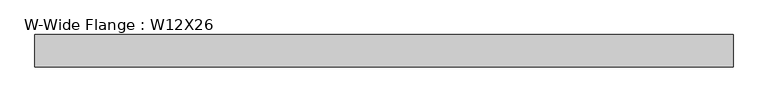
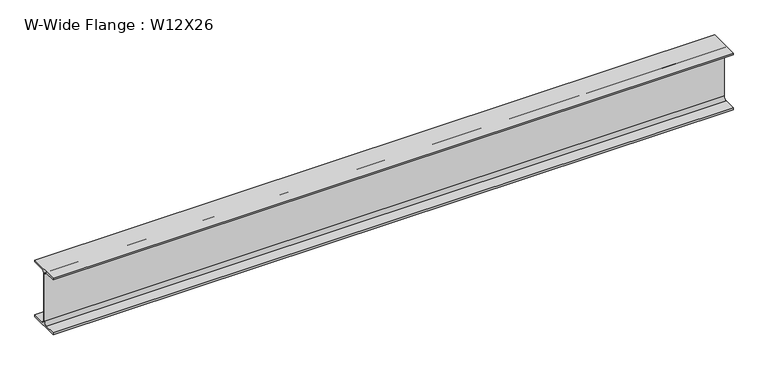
"""IFC4 building model written with IfcOpenShell, lengths in millimetres: beam geometry, W-Wide Flange : W12X26."""

from ifc_helpers import new_model, si_unit, point, frame, frame_2d, origin, place, context, project, spatial, polyline, circle_curve, trimmed, segment, composite_curve, outline, extrude, source, transform, mapped, element, save


def w_wide_flange_w12x26_5015041e(model_context):
    return source(origin(), model_context, "Body", "SweptSolid", [
        extrude(outline(composite_curve([segment(polyline([(82.4011719, -145.5539063), (82.4011719, -155.178125), (-82.4011719, -155.178125), (-82.4011719, -145.5539063), (-20.2902344, -145.5539063)]), True, "CONTINUOUS"), segment(trimmed(circle_curve(frame_2d((-20.2902344, -128.190625)), 17.3632812), [point((-20.2902344, -145.5539063))], [point((-2.9269531, -128.190625))], True, "CARTESIAN"), True, "CONTINUOUS"), segment(polyline([(-2.9269531, -128.190625), (-2.9269531, 128.190625)]), True, "CONTINUOUS"), segment(trimmed(circle_curve(frame_2d((-20.2902344, 128.190625)), 17.3632812), [point((-2.9269531, 128.190625))], [point((-20.2902344, 145.5539062))], True, "CARTESIAN"), True, "CONTINUOUS"), segment(polyline([(-20.2902344, 145.5539062), (-82.4011719, 145.5539062), (-82.4011719, 155.178125), (82.4011719, 155.178125), (82.4011719, 145.5539062), (20.2902344, 145.5539062)]), True, "CONTINUOUS"), segment(trimmed(circle_curve(frame_2d((20.2902344, 128.190625)), 17.3632812), [point((20.2902344, 145.5539062))], [point((2.9269531, 128.190625))], True, "CARTESIAN"), True, "CONTINUOUS"), segment(polyline([(2.9269531, 128.190625), (2.9269531, -128.190625)]), True, "CONTINUOUS"), segment(trimmed(circle_curve(frame_2d((20.2902344, -128.190625)), 17.3632812), [point((2.9269531, -128.190625))], [point((20.2902344, -145.5539063))], True, "CARTESIAN"), True, "CONTINUOUS"), segment(polyline([(20.2902344, -145.5539063), (82.4011719, -145.5539063)]), True, "CONTINUOUS")], self_intersect=False)), frame((-1766.0441406, 0.0, 0.0), z_axis=(1.0, 0.0, 0.0), x_axis=(0.0, 1.0, 0.0)), (0.0, 0.0, 1.0), 3532.0882812),
    ])


if __name__ == "__main__":
    model = new_model("IFC4")
    model_context = context("Model", 3, world=origin())
    ifc_project = project(units=[si_unit("LENGTHUNIT", "METRE", prefix="MILLI")], contexts=[model_context])
    site = spatial("IfcSite", under=ifc_project)
    building = spatial("IfcBuilding", under=site)
    placement = place(None, origin())
    w_wide_flange_w12x26_shape = w_wide_flange_w12x26_5015041e(model_context)
    element("IfcBeam", 1, ObjectType="W-Wide Flange : W12X26", at=placement, inside=building, context=model_context, shape_type="MappedRepresentation", body=[
        mapped(w_wide_flange_w12x26_shape, transform((0.0, 0.0, 0.0), x_axis=(1.0, 0.0, 0.0), y_axis=(0.0, 1.0, 0.0), z_axis=(0.0, 0.0, 1.0))),
    ])
    save(model, "model.ifc")
